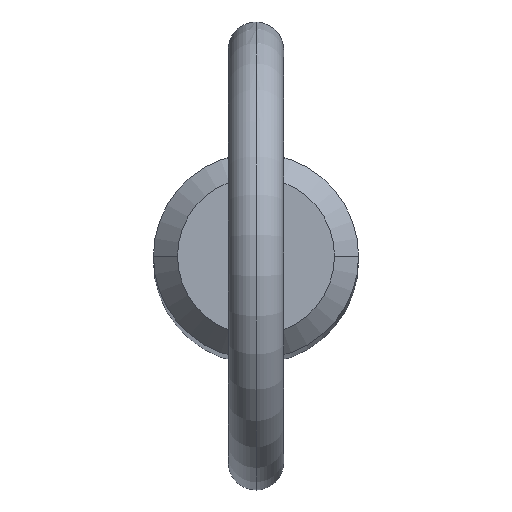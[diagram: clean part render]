
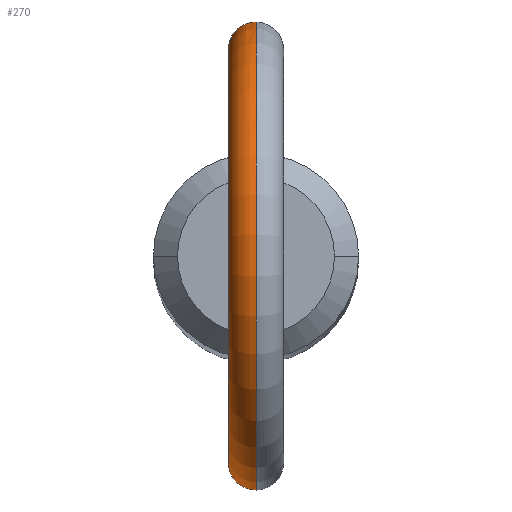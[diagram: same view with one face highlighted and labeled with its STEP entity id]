
A CAD part, top view. The second image highlights one B-rep face of the part: STEP entity #270.
In plain terms, the highlighted toroidal (fillet/blend) face has major radius 11.2 mm and minor radius 1.5 mm.
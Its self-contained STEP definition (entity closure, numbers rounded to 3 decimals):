
#1 = EDGE_LOOP ( 'NONE', ( #334, #275, #518, #499 ) ) ;
#2 = VERTEX_POINT ( 'NONE', #301 ) ;
#4 = DIRECTION ( 'NONE',  ( 1., 0., 0. ) ) ;
#12 = FACE_OUTER_BOUND ( 'NONE', #1, .T. ) ;
#20 = CARTESIAN_POINT ( 'NONE',  ( -0.107, -5.55, 130.777 ) ) ;
#27 = CARTESIAN_POINT ( 'NONE',  ( -1.195, -5.421, 133.471 ) ) ;
#28 = CARTESIAN_POINT ( 'NONE',  ( -0.513, -5.527, 134.123 ) ) ;
#31 = CARTESIAN_POINT ( 'NONE',  ( -1.455, -5.356, 131.936 ) ) ;
#56 = CARTESIAN_POINT ( 'NONE',  ( -0.976, 5.464, 131.131 ) ) ;
#59 = DIRECTION ( 'NONE',  ( 0., 0., -1. ) ) ;
#68 = EDGE_CURVE ( 'NONE', #383, #376, #485, .T. ) ;
#75 = CARTESIAN_POINT ( 'NONE',  ( -0.785, -5.497, 133.958 ) ) ;
#78 = AXIS2_PLACEMENT_3D ( 'NONE', #148, #269, #59 ) ;
#92 = CARTESIAN_POINT ( 'NONE',  ( 0., 0., 142.2 ) ) ;
#95 = CARTESIAN_POINT ( 'NONE',  ( -0.425, 5.537, 134.177 ) ) ;
#96 = CARTESIAN_POINT ( 'NONE',  ( -0.716, 5.504, 130.952 ) ) ;
#98 = CARTESIAN_POINT ( 'NONE',  ( 0., 5.55, 134.245 ) ) ;
#105 = AXIS2_PLACEMENT_3D ( 'NONE', #160, #329, #238 ) ;
#133 = CARTESIAN_POINT ( 'NONE',  ( -1.474, 5.351, 132.885 ) ) ;
#134 = CARTESIAN_POINT ( 'NONE',  ( -1.26, 5.407, 131.443 ) ) ;
#135 = CARTESIAN_POINT ( 'NONE',  ( 0., 5.55, 130.777 ) ) ;
#148 = CARTESIAN_POINT ( 'NONE',  ( 0., 0., 142.2 ) ) ;
#151 = CARTESIAN_POINT ( 'NONE',  ( 0., -5.55, 130.777 ) ) ;
#159 = EDGE_CURVE ( 'NONE', #2, #383, #255, .T. ) ;
#160 = CARTESIAN_POINT ( 'NONE',  ( 0., 0., 142.2 ) ) ;
#177 = CARTESIAN_POINT ( 'NONE',  ( 0., -5.55, 134.245 ) ) ;
#196 = AXIS2_PLACEMENT_3D ( 'NONE', #92, #4, #336 ) ;
#198 = CARTESIAN_POINT ( 'NONE',  ( -1.44, -5.36, 132.887 ) ) ;
#201 = CARTESIAN_POINT ( 'NONE',  ( -0.976, -5.464, 131.131 ) ) ;
#222 = CARTESIAN_POINT ( 'NONE',  ( -1.363, 5.38, 131.634 ) ) ;
#223 = CARTESIAN_POINT ( 'NONE',  ( -0.786, 5.497, 133.957 ) ) ;
#228 = CARTESIAN_POINT ( 'NONE',  ( -0.42, -5.535, 130.832 ) ) ;
#236 = CARTESIAN_POINT ( 'NONE',  ( -1.485, -5.348, 132.679 ) ) ;
#238 = DIRECTION ( 'NONE',  ( 0., 0., -1. ) ) ;
#248 = CIRCLE ( 'NONE', #105, 9.7 ) ;
#251 = B_SPLINE_CURVE_WITH_KNOTS ( 'NONE', 3,
 ( #271, #20, #355, #228, #521, #441, #436, #201, #476, #517, #327, #31, #482, #440, #399, #236, #198, #279, #27, #323, #75, #28, #362, #438, #519, #481 ),
 .UNSPECIFIED., .F., .F.,
 ( 4, 2, 2, 2, 2, 2, 2, 2, 2, 2, 2, 2, 4 ),
 ( 0.01, 0.01, 0.01, 0.011, 0.011, 0.012, 0.012, 0.012, 0.013, 0.013, 0.014, 0.014, 0.015 ),
 .UNSPECIFIED. ) ;
#255 = B_SPLINE_CURVE_WITH_KNOTS ( 'NONE', 3,
 ( #98, #505, #95, #223, #381, #262, #133, #382, #349, #222, #134, #424, #56, #462, #96, #419, #258, #135 ),
 .UNSPECIFIED., .F., .F.,
 ( 4, 2, 2, 2, 2, 2, 2, 2, 4 ),
 ( 0.006, 0.006, 0.007, 0.008, 0.009, 0.009, 0.01, 0.01, 0.011 ),
 .UNSPECIFIED. ) ;
#258 = CARTESIAN_POINT ( 'NONE',  ( -0.214, 5.55, 130.777 ) ) ;
#259 = VERTEX_POINT ( 'NONE', #177 ) ;
#262 = CARTESIAN_POINT ( 'NONE',  ( -1.321, 5.397, 133.304 ) ) ;
#269 = DIRECTION ( 'NONE',  ( 1., 0., 0. ) ) ;
#270 = ADVANCED_FACE ( 'NONE', ( #12 ), #344, .T. ) ;
#271 = CARTESIAN_POINT ( 'NONE',  ( 0., -5.55, 130.777 ) ) ;
#275 = ORIENTED_EDGE ( 'NONE', *, *, #159, .F. ) ;
#279 = CARTESIAN_POINT ( 'NONE',  ( -1.294, -5.398, 133.286 ) ) ;
#291 = EDGE_CURVE ( 'NONE', #376, #259, #251, .T. ) ;
#301 = CARTESIAN_POINT ( 'NONE',  ( 0., 5.55, 134.245 ) ) ;
#323 = CARTESIAN_POINT ( 'NONE',  ( -0.939, -5.472, 133.81 ) ) ;
#327 = CARTESIAN_POINT ( 'NONE',  ( -1.362, -5.381, 131.632 ) ) ;
#329 = DIRECTION ( 'NONE',  ( 1., 0., 0. ) ) ;
#334 = ORIENTED_EDGE ( 'NONE', *, *, #68, .F. ) ;
#336 = DIRECTION ( 'NONE',  ( 0., 0., -1. ) ) ;
#344 = TOROIDAL_SURFACE ( 'NONE', #78, 11.2, 1.5 ) ;
#349 = CARTESIAN_POINT ( 'NONE',  ( -1.486, 5.348, 132.038 ) ) ;
#355 = CARTESIAN_POINT ( 'NONE',  ( -0.212, -5.547, 130.788 ) ) ;
#362 = CARTESIAN_POINT ( 'NONE',  ( -0.416, -5.535, 134.167 ) ) ;
#376 = VERTEX_POINT ( 'NONE', #151 ) ;
#381 = CARTESIAN_POINT ( 'NONE',  ( -0.941, 5.471, 133.807 ) ) ;
#382 = CARTESIAN_POINT ( 'NONE',  ( -1.509, 5.341, 132.255 ) ) ;
#383 = VERTEX_POINT ( 'NONE', #480 ) ;
#399 = CARTESIAN_POINT ( 'NONE',  ( -1.503, -5.343, 132.359 ) ) ;
#406 = EDGE_CURVE ( 'NONE', #2, #259, #248, .T. ) ;
#419 = CARTESIAN_POINT ( 'NONE',  ( -0.425, 5.537, 130.821 ) ) ;
#424 = CARTESIAN_POINT ( 'NONE',  ( -1.055, 5.449, 131.205 ) ) ;
#436 = CARTESIAN_POINT ( 'NONE',  ( -0.807, -5.492, 131.005 ) ) ;
#438 = CARTESIAN_POINT ( 'NONE',  ( -0.211, -5.547, 134.229 ) ) ;
#440 = CARTESIAN_POINT ( 'NONE',  ( -1.5, -5.343, 132.253 ) ) ;
#441 = CARTESIAN_POINT ( 'NONE',  ( -0.716, -5.504, 130.952 ) ) ;
#462 = CARTESIAN_POINT ( 'NONE',  ( -0.807, 5.492, 131.006 ) ) ;
#476 = CARTESIAN_POINT ( 'NONE',  ( -1.054, -5.449, 131.204 ) ) ;
#480 = CARTESIAN_POINT ( 'NONE',  ( 0., 5.55, 130.777 ) ) ;
#481 = CARTESIAN_POINT ( 'NONE',  ( 0., -5.55, 134.245 ) ) ;
#482 = CARTESIAN_POINT ( 'NONE',  ( -1.477, -5.35, 132.042 ) ) ;
#485 = CIRCLE ( 'NONE', #196, 12.7 ) ;
#499 = ORIENTED_EDGE ( 'NONE', *, *, #291, .F. ) ;
#505 = CARTESIAN_POINT ( 'NONE',  ( -0.213, 5.55, 134.245 ) ) ;
#517 = CARTESIAN_POINT ( 'NONE',  ( -1.26, -5.407, 131.442 ) ) ;
#518 = ORIENTED_EDGE ( 'NONE', *, *, #406, .T. ) ;
#519 = CARTESIAN_POINT ( 'NONE',  ( -0.106, -5.55, 134.245 ) ) ;
#521 = CARTESIAN_POINT ( 'NONE',  ( -0.523, -5.526, 130.866 ) ) ;
